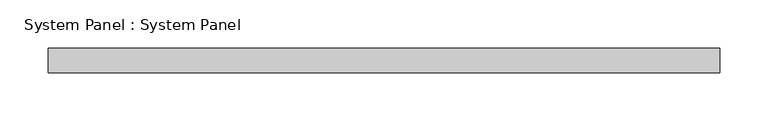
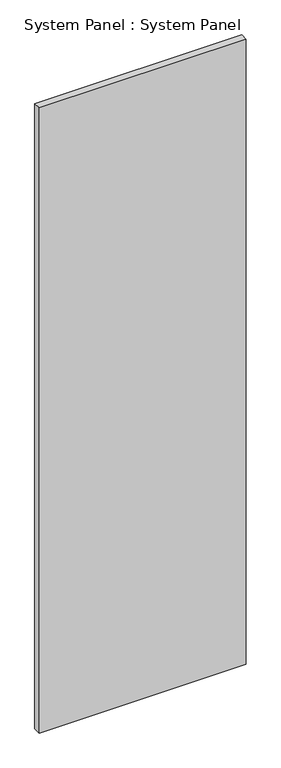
"""IFC4 building model written with IfcOpenShell, lengths in millimetres: plate geometry, System Panel : System Panel."""

from ifc_helpers import new_model, si_unit, origin, origin_with_axes, place, context, project, spatial, polyline, outline, extrude, source, transform, mapped, element, save


def system_panel_system_panel_3b0a3080(model_context):
    return source(origin(), model_context, "Body", "SweptSolid", [
        extrude(outline(polyline([(349.25, 19.05), (-349.25, 19.05), (-349.25, 44.45), (349.25, 44.45), (349.25, 19.05)])), origin_with_axes(), (0.0, 0.0, 1.0), 2228.85),
    ])


if __name__ == "__main__":
    model = new_model("IFC4")
    model_context = context("Model", 3, world=origin())
    ifc_project = project(units=[si_unit("LENGTHUNIT", "METRE", prefix="MILLI")], contexts=[model_context])
    site = spatial("IfcSite", under=ifc_project)
    building = spatial("IfcBuilding", under=site)
    placement = place(None, origin())
    system_panel_system_panel_shape = system_panel_system_panel_3b0a3080(model_context)
    element("IfcPlate", 1, ObjectType="System Panel : System Panel", at=placement, inside=building, context=model_context, shape_type="MappedRepresentation", body=[
        mapped(system_panel_system_panel_shape, transform((0.0, 0.0, 0.0), x_axis=(1.0, 0.0, 0.0), y_axis=(0.0, 1.0, 0.0), z_axis=(0.0, 0.0, 1.0))),
    ])
    save(model, "model.ifc")
